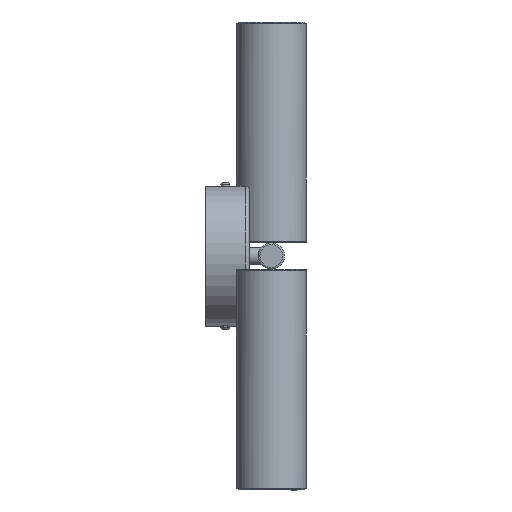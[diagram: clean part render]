
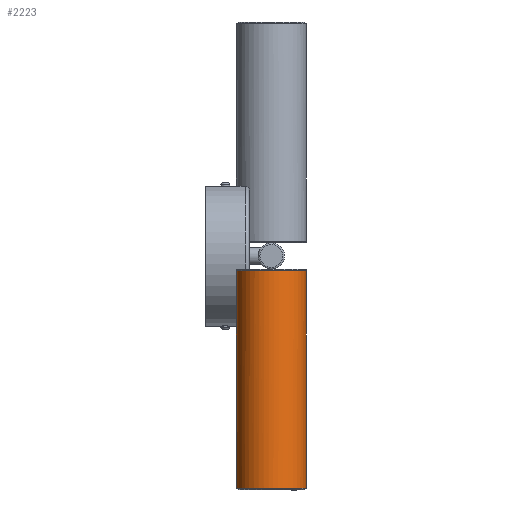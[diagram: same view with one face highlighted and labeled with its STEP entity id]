
A CAD part, left-side view. The second image highlights one B-rep face of the part: STEP entity #2223.
In plain terms, the highlighted free-form (B-spline) face has degree [2, 1] with [9, 2] control points.
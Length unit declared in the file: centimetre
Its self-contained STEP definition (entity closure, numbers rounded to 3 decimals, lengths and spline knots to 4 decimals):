
#1977 = CARTESIAN_POINT ('', (-22., 0., -0.25));
#1978 = VERTEX_POINT ('', #1977);
#1984 = CARTESIAN_POINT ('', (-22., 0., -0.25));
#1985 = CARTESIAN_POINT ('', (-22., -0.0786, -0.25));
#1986 = CARTESIAN_POINT ('', (-22.0093, -0.2396, -0.25));
#1987 = CARTESIAN_POINT ('', (-22.0548, -0.488, -0.25));
#1988 = CARTESIAN_POINT ('', (-22.1345, -0.7372, -0.25));
#1989 = CARTESIAN_POINT ('', (-22.2497, -0.9803, -0.25));
#1990 = CARTESIAN_POINT ('', (-22.3996, -1.2099, -0.25));
#1991 = CARTESIAN_POINT ('', (-22.5813, -1.4187, -0.25));
#1992 = CARTESIAN_POINT ('', (-22.7901, -1.6004, -0.25));
#1993 = CARTESIAN_POINT ('', (-23.0197, -1.7503, -0.25));
#1994 = CARTESIAN_POINT ('', (-23.2628, -1.8655, -0.25));
#1995 = CARTESIAN_POINT ('', (-23.4705, -1.9319, -0.25));
#1996 = CARTESIAN_POINT ('', (-23.6362, -1.968, -0.25));
#1997 = CARTESIAN_POINT ('', (-23.7595, -1.9868, -0.25));
#1998 = CARTESIAN_POINT ('', (-23.8813, -1.9977, -0.25));
#1999 = CARTESIAN_POINT ('', (-24., -2.0012, -0.25));
#2000 = CARTESIAN_POINT ('', (-24.1187, -1.9977, -0.25));
#2001 = CARTESIAN_POINT ('', (-24.2405, -1.9868, -0.25));
#2002 = CARTESIAN_POINT ('', (-24.3638, -1.968, -0.25));
#2003 = CARTESIAN_POINT ('', (-24.5295, -1.9319, -0.25));
#2004 = CARTESIAN_POINT ('', (-24.7372, -1.8655, -0.25));
#2005 = CARTESIAN_POINT ('', (-24.9803, -1.7503, -0.25));
#2006 = CARTESIAN_POINT ('', (-25.2099, -1.6004, -0.25));
#2007 = CARTESIAN_POINT ('', (-25.4187, -1.4187, -0.25));
#2008 = CARTESIAN_POINT ('', (-25.6004, -1.2099, -0.25));
#2009 = CARTESIAN_POINT ('', (-25.7503, -0.9803, -0.25));
#2010 = CARTESIAN_POINT ('', (-25.8655, -0.7372, -0.25));
#2011 = CARTESIAN_POINT ('', (-25.9319, -0.5295, -0.25));
#2012 = CARTESIAN_POINT ('', (-25.968, -0.3638, -0.25));
#2013 = CARTESIAN_POINT ('', (-25.9868, -0.2405, -0.25));
#2014 = CARTESIAN_POINT ('', (-25.9977, -0.1187, -0.25));
#2015 = CARTESIAN_POINT ('', (-26.0012, 0., -0.25));
#2016 = CARTESIAN_POINT ('', (-25.9977, 0.1187, -0.25));
#2017 = CARTESIAN_POINT ('', (-25.9868, 0.2405, -0.25));
#2018 = CARTESIAN_POINT ('', (-25.968, 0.3638, -0.25));
#2019 = CARTESIAN_POINT ('', (-25.9319, 0.5295, -0.25));
#2020 = CARTESIAN_POINT ('', (-25.8655, 0.7372, -0.25));
#2021 = CARTESIAN_POINT ('', (-25.7503, 0.9803, -0.25));
#2022 = CARTESIAN_POINT ('', (-25.6004, 1.2099, -0.25));
#2023 = CARTESIAN_POINT ('', (-25.4187, 1.4187, -0.25));
#2024 = CARTESIAN_POINT ('', (-25.2099, 1.6004, -0.25));
#2025 = CARTESIAN_POINT ('', (-24.9803, 1.7503, -0.25));
#2026 = CARTESIAN_POINT ('', (-24.7372, 1.8655, -0.25));
#2027 = CARTESIAN_POINT ('', (-24.5295, 1.9319, -0.25));
#2028 = CARTESIAN_POINT ('', (-24.3638, 1.968, -0.25));
#2029 = CARTESIAN_POINT ('', (-24.2405, 1.9868, -0.25));
#2030 = CARTESIAN_POINT ('', (-24.1187, 1.9977, -0.25));
#2031 = CARTESIAN_POINT ('', (-24., 2.0012, -0.25));
#2032 = CARTESIAN_POINT ('', (-23.8813, 1.9977, -0.25));
#2033 = CARTESIAN_POINT ('', (-23.7595, 1.9868, -0.25));
#2034 = CARTESIAN_POINT ('', (-23.6362, 1.968, -0.25));
#2035 = CARTESIAN_POINT ('', (-23.4705, 1.9319, -0.25));
#2036 = CARTESIAN_POINT ('', (-23.2628, 1.8655, -0.25));
#2037 = CARTESIAN_POINT ('', (-23.0197, 1.7503, -0.25));
#2038 = CARTESIAN_POINT ('', (-22.7901, 1.6004, -0.25));
#2039 = CARTESIAN_POINT ('', (-22.5813, 1.4187, -0.25));
#2040 = CARTESIAN_POINT ('', (-22.3996, 1.2099, -0.25));
#2041 = CARTESIAN_POINT ('', (-22.2497, 0.9803, -0.25));
#2042 = CARTESIAN_POINT ('', (-22.1345, 0.7372, -0.25));
#2043 = CARTESIAN_POINT ('', (-22.0548, 0.488, -0.25));
#2044 = CARTESIAN_POINT ('', (-22.0093, 0.2396, -0.25));
#2045 = CARTESIAN_POINT ('', (-22., 0.0786, -0.25));
#2046 = CARTESIAN_POINT ('', (-22., 0., -0.25));
#2047 = B_SPLINE_CURVE_WITH_KNOTS ('', 3, (#1984, #1985, #1986, #1987, #1988, #1989, #1990, #1991, #1992, #1993, #1994, #1995, #1996, #1997, #1998, #1999, #2000, #2001, #2002, #2003, #2004, #2005, #2006, #2007, #2008, #2009, #2010, #2011, #2012, #2013, #2014, #2015, #2016, #2017, #2018, #2019, #2020, #2021, #2022, #2023, #2024, #2025, #2026, #2027, #2028, #2029, #2030, #2031, #2032, #2033, #2034, #2035, #2036, #2037, #2038, #2039, #2040, #2041, #2042, #2043, #2044, #2045, #2046), .UNSPECIFIED., .T., .U., (4, 1, 1, 1, 1, 1, 1, 1, 1, 1, 1, 1, 1, 1, 1, 1, 1, 1, 1, 1, 1, 1, 1, 1, 1, 1, 1, 1, 1, 1, 1, 1, 1, 1, 1, 1, 1, 1, 1, 1, 1, 1, 1, 1, 1, 1, 1, 1, 1, 1, 1, 1, 1, 1, 1, 1, 1, 1, 1, 1, 4), (0., 0.0208, 0.0417, 0.0625, 0.0833, 0.1042, 0.125, 0.1458, 0.1667, 0.1875, 0.2083, 0.2188, 0.2292, 0.2396, 0.25, 0.2604, 0.2708, 0.2813, 0.2917, 0.3125, 0.3333, 0.3542, 0.375, 0.3958, 0.4167, 0.4375, 0.4583, 0.4688, 0.4792, 0.4896, 0.5, 0.5104, 0.5208, 0.5313, 0.5417, 0.5625, 0.5833, 0.6042, 0.625, 0.6458, 0.6667, 0.6875, 0.7083, 0.7188, 0.7292, 0.7396, 0.75, 0.7604, 0.7708, 0.7813, 0.7917, 0.8125, 0.8333, 0.8542, 0.875, 0.8958, 0.9167, 0.9375, 0.9583, 0.9792, 1.), .UNSPECIFIED.);
#2048 = EDGE_CURVE ('', #1978, #1978, #2047, .T.);
#2181 = CARTESIAN_POINT ('', (-22., 0., 12.15));
#2182 = VERTEX_POINT ('', #2181);
#2183 = CARTESIAN_POINT ('', (-22., 0., -0.25));
#2184 = CARTESIAN_POINT ('', (-22., 0., 12.15));
#2185 = B_SPLINE_CURVE_WITH_KNOTS ('', 1, (#2183, #2184), .UNSPECIFIED., .F., .U., (2, 2), (0., 0.992), .UNSPECIFIED.);
#2186 = EDGE_CURVE ('', #1978, #2182, #2185, .T.);
#2187 = ORIENTED_EDGE ('', *, *, #2186, .T.);
#2188 = CARTESIAN_POINT ('', (-22., 0., 12.15));
#2189 = CARTESIAN_POINT ('', (-22., 2., 12.15));
#2190 = CARTESIAN_POINT ('', (-24., 2., 12.15));
#2191 = CARTESIAN_POINT ('', (-26., 2., 12.15));
#2192 = CARTESIAN_POINT ('', (-26., 0., 12.15));
#2193 = CARTESIAN_POINT ('', (-26., -2., 12.15));
#2194 = CARTESIAN_POINT ('', (-24., -2., 12.15));
#2195 = CARTESIAN_POINT ('', (-22., -2., 12.15));
#2196 = CARTESIAN_POINT ('', (-22., 0., 12.15));
#2197 = (
   BOUNDED_CURVE ()
   B_SPLINE_CURVE (2, (#2188, #2189, #2190, #2191, #2192, #2193, #2194, #2195, #2196), .UNSPECIFIED., .T., .U.)
   B_SPLINE_CURVE_WITH_KNOTS ((3, 2, 2, 2, 3), (0., 0.25, 0.5, 0.75, 1.), .UNSPECIFIED.)
   CURVE ()
   GEOMETRIC_REPRESENTATION_ITEM ()
   RATIONAL_B_SPLINE_CURVE ((1., 0.707, 1., 0.707, 1., 0.707, 1., 0.707, 1.))
   REPRESENTATION_ITEM ('')
);
#2198 = EDGE_CURVE ('', #2182, #2182, #2197, .T.);
#2199 = ORIENTED_EDGE ('', *, *, #2198, .F.);
#2200 = ORIENTED_EDGE ('', *, *, #2186, .F.);
#2201 = ORIENTED_EDGE ('', *, *, #2048, .F.);
#2202 = EDGE_LOOP ('', (#2187, #2199, #2200, #2201));
#2203 = FACE_OUTER_BOUND ('', #2202, .T.);
#2204 = CARTESIAN_POINT ('', (-22., 0., -0.25));
#2205 = CARTESIAN_POINT ('', (-22., 0., 12.25));
#2206 = CARTESIAN_POINT ('', (-22., 2., -0.25));
#2207 = CARTESIAN_POINT ('', (-22., 2., 12.25));
#2208 = CARTESIAN_POINT ('', (-24., 2., -0.25));
#2209 = CARTESIAN_POINT ('', (-24., 2., 12.25));
#2210 = CARTESIAN_POINT ('', (-26., 2., -0.25));
#2211 = CARTESIAN_POINT ('', (-26., 2., 12.25));
#2212 = CARTESIAN_POINT ('', (-26., 0., -0.25));
#2213 = CARTESIAN_POINT ('', (-26., 0., 12.25));
#2214 = CARTESIAN_POINT ('', (-26., -2., -0.25));
#2215 = CARTESIAN_POINT ('', (-26., -2., 12.25));
#2216 = CARTESIAN_POINT ('', (-24., -2., -0.25));
#2217 = CARTESIAN_POINT ('', (-24., -2., 12.25));
#2218 = CARTESIAN_POINT ('', (-22., -2., -0.25));
#2219 = CARTESIAN_POINT ('', (-22., -2., 12.25));
#2220 = CARTESIAN_POINT ('', (-22., 0., -0.25));
#2221 = CARTESIAN_POINT ('', (-22., 0., 12.25));
#2222 = (
   BOUNDED_SURFACE ()
   B_SPLINE_SURFACE (2, 1, ((#2204, #2205), (#2206, #2207), (#2208, #2209), (#2210, #2211), (#2212, #2213), (#2214, #2215), (#2216, #2217), (#2218, #2219), (#2220, #2221)), .UNSPECIFIED., .T., .F., .U.)
   B_SPLINE_SURFACE_WITH_KNOTS ((3, 2, 2, 2, 3), (2, 2), (0., 0.25, 0.5, 0.75, 1.), (0., 1.), .UNSPECIFIED.)
   SURFACE ()
   GEOMETRIC_REPRESENTATION_ITEM ()
   RATIONAL_B_SPLINE_SURFACE (((1., 1.), (0.707, 0.707), (1., 1.), (0.707, 0.707), (1., 1.), (0.707, 0.707), (1., 1.), (0.707, 0.707), (1., 1.)))
   REPRESENTATION_ITEM ('')
);
#2223 = ADVANCED_FACE ('', (#2203), #2222, .T.);
